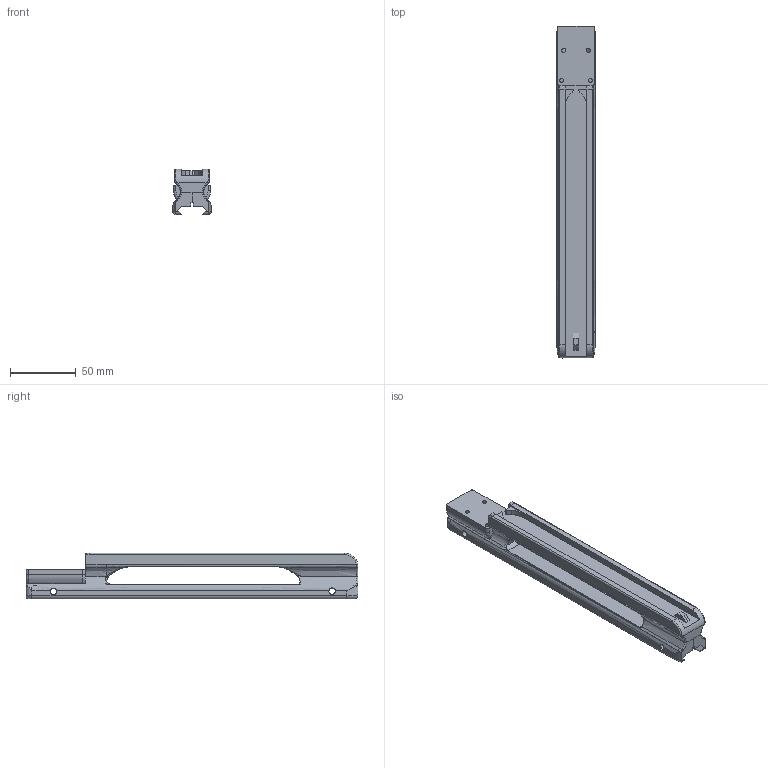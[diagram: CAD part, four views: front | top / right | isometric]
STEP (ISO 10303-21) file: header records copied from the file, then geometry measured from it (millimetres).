
FILE_DESCRIPTION(/* description */ (''),/* implementation_level */ '2;1');
FILE_NAME(/* name */ 'C:/Users/jeremy/OneDrive/Desktop/SG22 Carry Handle RMR Release.step',/* time_stamp */ '2021-03-18T08:57:38-06:00',/* author */ (''),/* organization */ (''),/* preprocessor_version */ 'ST-DEVELOPER v18.1',/* originating_system */ 'Autodesk Translation Framework v9.10.0.1330',/* authorisation */ '');
FILE_SCHEMA (('AUTOMOTIVE_DESIGN { 1 0 10303 214 3 1 1 }'));
Length unit declared in the file: millimetre
Products named in the file (1): Brace V2
Bounding box: 28.96 x 252.07 x 34.52 mm (x, y, z)
Volume: 115193.3 mm3; surface area: 43892.1 mm2
Topology: 1 solids, 1 shells, 289 faces, 826 edges, 530 vertices
Faces by surface type: plane 158, bspline 62, cylinder 51, torus 10, sphere 8
Full cylindrical faces by diameter (mm): 3 x4, 5 x4, 5.004 x2
Entity records: 11732 total; most frequent: CARTESIAN_POINT 4595, ORIENTED_EDGE 1652, DIRECTION 1235, EDGE_CURVE 826, VERTEX_POINT 530, LINE 453, VECTOR 453, AXIS2_PLACEMENT_3D 391
